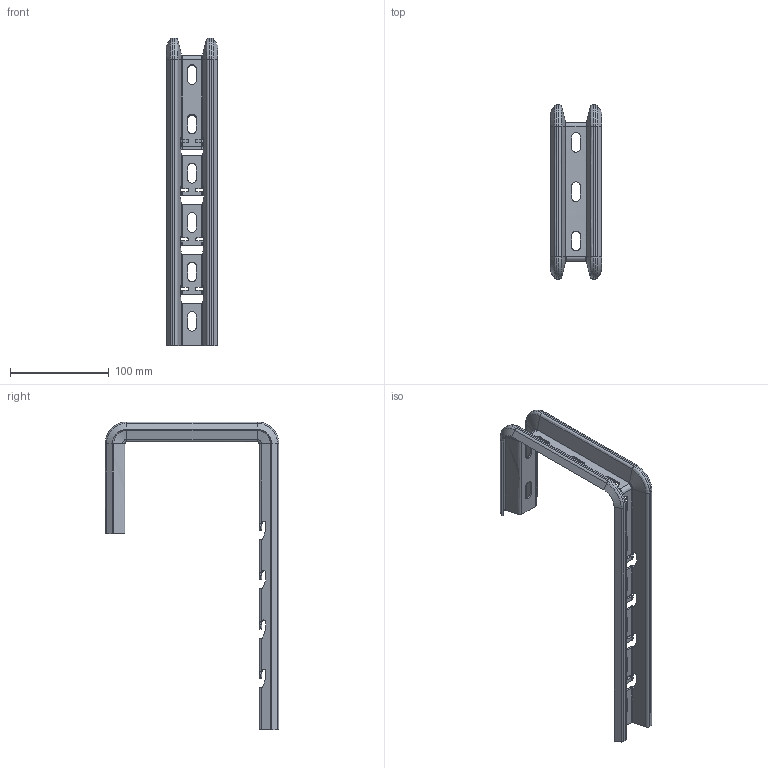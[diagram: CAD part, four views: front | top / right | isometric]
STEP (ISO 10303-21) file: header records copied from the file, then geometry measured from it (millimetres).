
FILE_DESCRIPTION (( 'STEP AP214' ), '1' );
FILE_NAME ('C-SHOT 200.STEP', '2023-06-28T09:47:21', ( '' ), ( '' ), 'SwSTEP 2.0', 'SolidWorks 2022', '' );
FILE_SCHEMA (( 'AUTOMOTIVE_DESIGN' ));
Length unit declared in the file: millimetre
Products named in the file (1): C-SHOT 200
Bounding box: 52 x 176 x 312 mm (x, y, z)
Volume: 84092.3 mm3; surface area: 89940.6 mm2
Topology: 1 solids, 1 shells, 375 faces, 921 edges, 540 vertices
Faces by surface type: plane 168, bspline 105, cylinder 98, cone 4
Entity records: 50409 total; most frequent: CARTESIAN_POINT 42144, ORIENTED_EDGE 1842, DIRECTION 1455, EDGE_CURVE 921, LINE 553, VECTOR 553, VERTEX_POINT 540, AXIS2_PLACEMENT_3D 451
